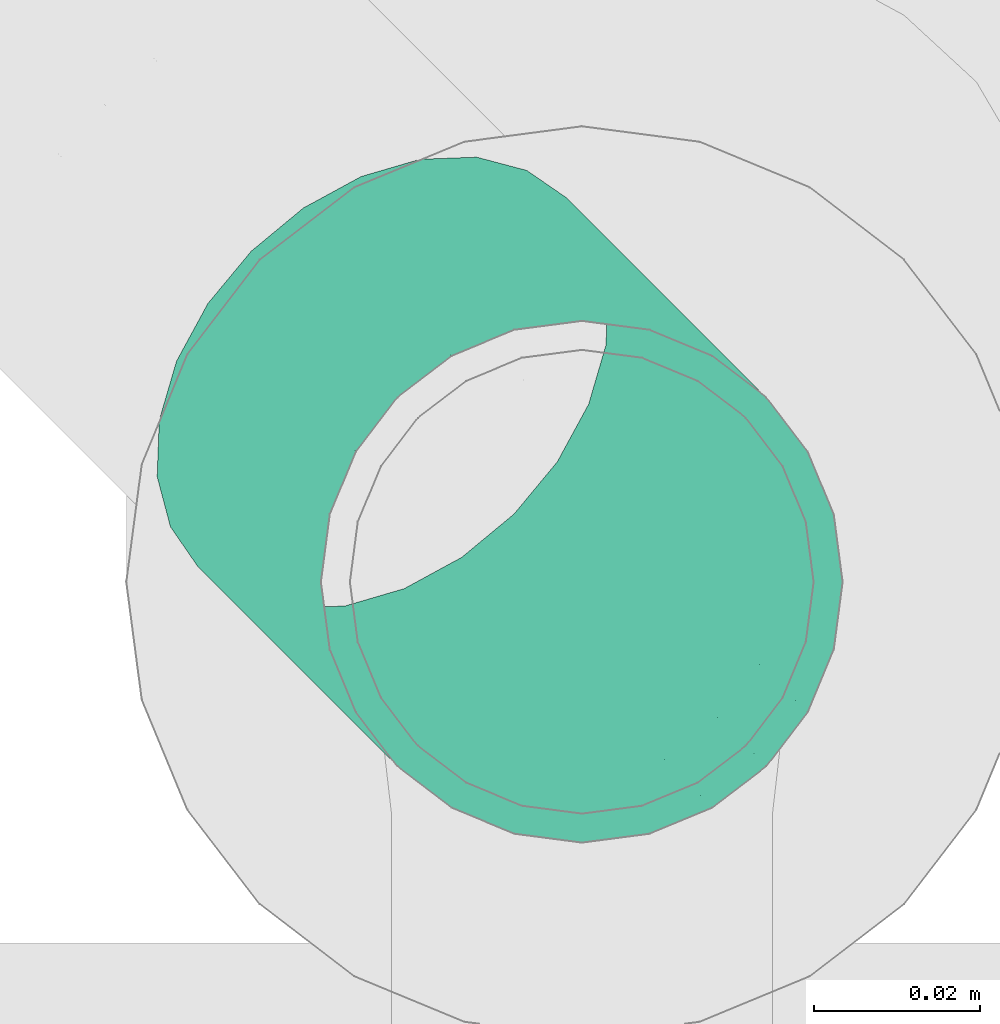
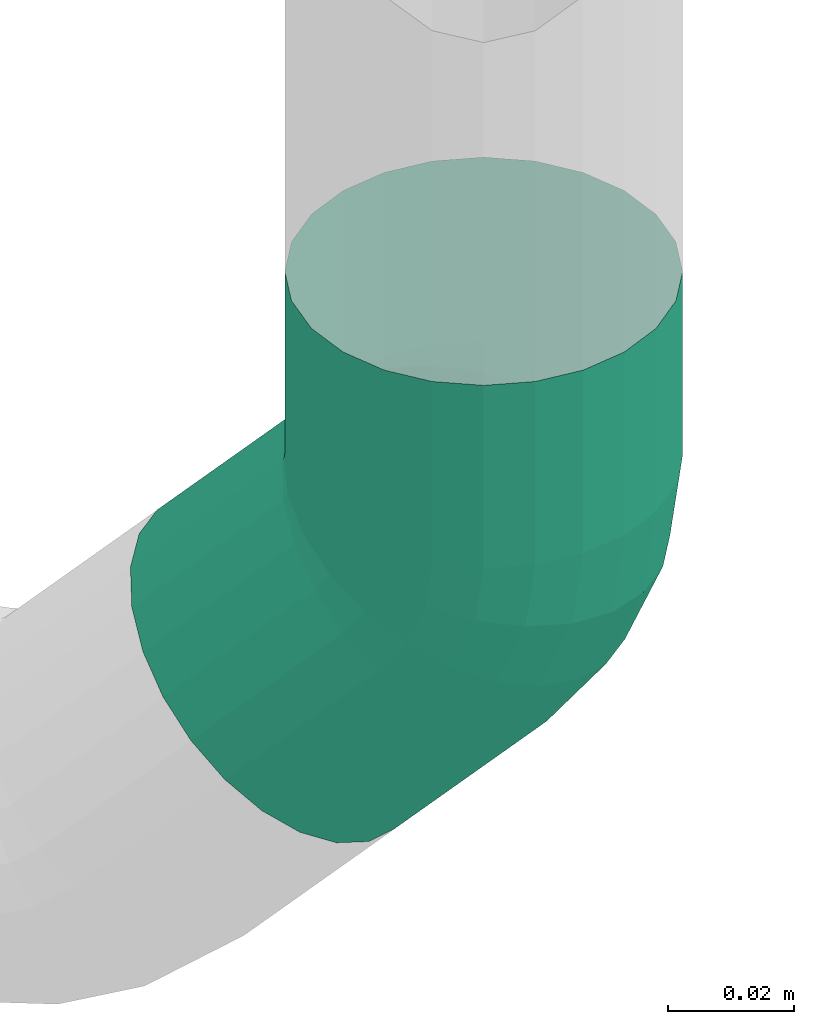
# One storey, part 125 of 374: 1 flow fitting.
"""IFC2X3 building model written with IfcOpenShell, lengths in metres."""

import ifcopenshell
import ifcopenshell.guid

model = None  # the IFC model being written
_history = None  # IfcOwnerHistory: only IFC2X3 demands one
_inside = {}  # id of a spatial element -> (the spatial element, [elements in it])
_under = {}  # id of a project, library or spatial element -> (it, [spatial elements below it])
_declared = {}  # id of a project -> (the project, [libraries it declares])
_typed = {}  # id of a type object -> (the type object, [elements of that type])
_made_of = {}  # id of a material, layer set ... -> (it, [elements and type objects made of it])


def new_model(schema):
    """Start an empty IFC model of exactly this schema.

    Asked for "IFC4X3", IfcOpenShell would pick the latest addendum, in which some entities
    have other attributes; the version numbers below select the first issue.
    IFC2X3 requires an IfcOwnerHistory on every rooted entity: one is made here for all.
    """
    global model, _history
    if schema == "IFC4X3":
        model = ifcopenshell.file(schema_version=(4, 3, 0, 0))
    else:
        model = ifcopenshell.file(schema=schema)
    _inside.clear()
    _under.clear()
    _declared.clear()
    _typed.clear()
    _made_of.clear()
    _history = None
    if model.schema == "IFC2X3":
        org = make("IfcOrganization", Name="unknown")
        user = make(
            "IfcPersonAndOrganization",
            ThePerson=make("IfcPerson", FamilyName="unknown"),
            TheOrganization=org,
        )
        app = make(
            "IfcApplication",
            ApplicationDeveloper=org,
            Version="unknown",
            ApplicationFullName="unknown",
            ApplicationIdentifier="unknown",
        )
        _history = make(
            "IfcOwnerHistory",
            OwningUser=user,
            OwningApplication=app,
            ChangeAction="ADDED",
            CreationDate=0,
        )
    return model


def make(cls, **values):
    """One entity of the class cls with the attributes given. An attribute that is None is left unset."""
    return model.create_entity(
        cls, **{name: value for name, value in values.items() if value is not None}
    )


def rooted(cls, **values):
    """An entity with a GlobalId (a new one), such as an element, a storey or a relation."""
    return make(cls, GlobalId=ifcopenshell.guid.new(), OwnerHistory=_history, **values)


def si_unit(unit_type, name, prefix=None):
    """IfcSIUnit, for example si_unit("LENGTHUNIT", "METRE", prefix="MILLI")."""
    return make("IfcSIUnit", UnitType=unit_type, Prefix=prefix, Name=name)


def assignment(units):
    """IfcUnitAssignment: the units of a project."""
    return None if units is None else make("IfcUnitAssignment", Units=units)


def point(xyz):
    """IfcCartesianPoint."""
    return None if xyz is None else make("IfcCartesianPoint", Coordinates=xyz)


def direction(xyz):
    """IfcDirection."""
    return None if xyz is None else make("IfcDirection", DirectionRatios=xyz)


def frame(location, z_axis=None, x_axis=None):
    """IfcAxis2Placement3D, a coordinate frame: its origin and axes. An axis left out is left unset."""
    return make(
        "IfcAxis2Placement3D",
        Location=point(location),
        Axis=direction(z_axis),
        RefDirection=direction(x_axis),
    )


def origin():
    """The frame at (0, 0, 0) with its axes left unset."""
    return frame((0.0, 0.0, 0.0))


def place(relative_to, where):
    """IfcLocalPlacement: puts the frame where relative to a parent placement (None: the world)."""
    return make(
        "IfcLocalPlacement", PlacementRelTo=relative_to, RelativePlacement=where
    )


def context(
    kind, dimensions, precision=None, world=None, true_north=None, identifier=None
):
    """IfcGeometricRepresentationContext, for example the 3D "Model" context."""
    return make(
        "IfcGeometricRepresentationContext",
        ContextIdentifier=identifier,
        ContextType=kind,
        CoordinateSpaceDimension=dimensions,
        Precision=precision,
        WorldCoordinateSystem=world,
        TrueNorth=true_north,
    )


def subcontext(parent, identifier, kind, view, scale=None):
    """IfcGeometricRepresentationSubContext, for example "Body" below "Model"."""
    return make(
        "IfcGeometricRepresentationSubContext",
        ContextIdentifier=identifier,
        ContextType=kind,
        ParentContext=parent,
        TargetScale=scale,
        TargetView=view,
    )


def project(units=None, contexts=None):
    """IfcProject with its units and contexts."""
    return rooted(
        "IfcProject",
        Name="project",
        RepresentationContexts=contexts,
        UnitsInContext=assignment(units),
    )


def spatial(cls, under=None, at=None, **own):
    """A site, building, storey or space (cls), placed at a placement, below another one or the project."""
    s = rooted(cls, ObjectPlacement=at, **own)
    if under is not None:
        _under.setdefault(under.id(), (under, []))[1].append(s)
    return s


def faces_of(points, faces, orient=None, outer=None):
    """IfcFace entities. A face is a list of loops; a loop is a list of indices into points, from 0.

    orient and outer hold one flag for each loop. By default every Orientation is true, the
    first loop of a face is its IfcFaceOuterBound and the others are IfcFaceBound.
    """
    made = []
    for i, loops in enumerate(faces):
        bounds = []
        for j, loop in enumerate(loops):
            is_outer = j == 0 if outer is None else outer[i][j]
            bounds.append(
                make(
                    "IfcFaceOuterBound" if is_outer else "IfcFaceBound",
                    Bound=make("IfcPolyLoop", Polygon=[points[k] for k in loop]),
                    Orientation=True if orient is None else orient[i][j],
                )
            )
        made.append(make("IfcFace", Bounds=bounds))
    return made


def open_shell(faces, orient=None, outer=None):
    """The faces of one IfcOpenShell. surface_model builds it on its shared points."""
    return ("IfcOpenShell", faces, orient, outer)


def surface_model(cls, points, shells):
    """IfcFaceBasedSurfaceModel or IfcShellBasedSurfaceModel (cls): surfaces that need not close."""
    shared = [point(p) for p in points]
    made = [make(c, CfsFaces=faces_of(shared, fs, o, b)) for c, fs, o, b in shells]
    if cls == "IfcFaceBasedSurfaceModel":
        return make(cls, FbsmFaces=made)
    return make(cls, SbsmBoundary=made)


def shape(context_of_items, identifier, shape_type, items):
    """IfcShapeRepresentation: the items that make up one representation, for example the "Body"."""
    return make(
        "IfcShapeRepresentation",
        ContextOfItems=context_of_items,
        RepresentationIdentifier=identifier,
        RepresentationType=shape_type,
        Items=items,
    )


def source(mapping_origin, context_of_items, identifier, shape_type, items):
    """IfcRepresentationMap: a shape defined once, which mapped items show again and again."""
    return make(
        "IfcRepresentationMap",
        MappingOrigin=mapping_origin,
        MappedRepresentation=shape(context_of_items, identifier, shape_type, items),
    )


def transform(
    local_origin,
    x_axis=None,
    y_axis=None,
    z_axis=None,
    scale=None,
    scale2=None,
    scale3=None,
    uniform=True,
):
    """IfcCartesianTransformationOperator3D, or its non-uniform kind. x_axis, y_axis, z_axis: its Axis1, 2, 3."""
    if uniform:
        return make(
            "IfcCartesianTransformationOperator3D",
            Axis1=direction(x_axis),
            Axis2=direction(y_axis),
            LocalOrigin=point(local_origin),
            Scale=scale,
            Axis3=direction(z_axis),
        )
    return make(
        "IfcCartesianTransformationOperator3DnonUniform",
        Axis1=direction(x_axis),
        Axis2=direction(y_axis),
        LocalOrigin=point(local_origin),
        Scale=scale,
        Axis3=direction(z_axis),
        Scale2=scale2,
        Scale3=scale3,
    )


def mapped(mapping_source, mapping_target):
    """IfcMappedItem: shows the shape of a source again, moved by a transform."""
    return make(
        "IfcMappedItem", MappingSource=mapping_source, MappingTarget=mapping_target
    )


def made_of(thing, what):
    """Note that an element or type object is made of a material, layer set ...; save() writes the relation."""
    if what is not None:
        _made_of.setdefault(what.id(), (what, []))[1].append(thing)
    return thing


def element(
    cls,
    number,
    at=None,
    inside=None,
    cuts=None,
    type_object=None,
    material=None,
    context=None,
    identifier="Body",
    shape_type=None,
    held_by="IfcProductDefinitionShape",
    body=None,
    shapes=None,
    **own,
):
    """One element of the class cls, such as IfcWall. Its Tag is "e" and its number.

    at: its placement. inside: the storey or other place that contains it. cuts: it is an
    opening in that element (IfcRelVoidsElement). A single representation is given by context,
    identifier, shape_type and body (its items); several are given by shapes. held_by: the class
    of the entity that holds the representations. save() writes the other relations.
    """
    e = rooted(cls, Tag="e%d" % number, ObjectPlacement=at, **own)
    if body is not None:
        shapes = [shape(context, identifier, shape_type, body)]
    if shapes is not None:
        e.Representation = make(held_by, Representations=shapes)
    if inside is not None:
        _inside.setdefault(inside.id(), (inside, []))[1].append(e)
    if cuts is not None:
        rooted(
            "IfcRelVoidsElement", RelatingBuildingElement=cuts, RelatedOpeningElement=e
        )
    if type_object is not None:
        _typed.setdefault(type_object.id(), (type_object, []))[1].append(e)
    return made_of(e, material)


def aggregate(whole, parts):
    """IfcRelAggregates: a whole, such as a stair, and the parts it consists of."""
    return rooted("IfcRelAggregates", RelatingObject=whole, RelatedObjects=parts)


def save(model, path):
    """Write the relations noted so far, then the file.

    IfcRelAggregates (storeys below a building ...), IfcRelContainedInSpatialStructure (elements
    in a storey), IfcRelDefinesByType, IfcRelAssociatesMaterial and IfcRelDeclares: one each for
    every whole, place, type object, material and project.
    """
    for whole, parts in _under.values():
        aggregate(whole, parts)
    for where, things in _inside.values():
        rooted(
            "IfcRelContainedInSpatialStructure",
            RelatedElements=things,
            RelatingStructure=where,
        )
    for kind, things in _typed.values():
        rooted("IfcRelDefinesByType", RelatedObjects=things, RelatingType=kind)
    for what, things in _made_of.values():
        rooted("IfcRelAssociatesMaterial", RelatedObjects=things, RelatingMaterial=what)
    for by, libraries in _declared.values():
        rooted("IfcRelDeclares", RelatingContext=by, RelatedDefinitions=libraries)
    model.write(path)


model = new_model("IFC2X3")

# Units and contexts
model_context = context("Model", 3, precision=1e-05, world=origin(), true_north=direction((-0.4480736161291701, 0.8939966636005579)))
body_context = subcontext(model_context, "Body", "Model", "MODEL_VIEW")
ifc_project = project(units=[si_unit("LENGTHUNIT", "METRE"), si_unit("AREAUNIT", "SQUARE_METRE"), si_unit("VOLUMEUNIT", "CUBIC_METRE"), si_unit("PLANEANGLEUNIT", "RADIAN"), si_unit("THERMODYNAMICTEMPERATUREUNIT", "KELVIN"), si_unit("MASSUNIT", "GRAM", prefix="KILO"), si_unit("TIMEUNIT", "SECOND")], contexts=[model_context])

# Site, building, storey
site_placement = place(None, origin())
site = spatial("IfcSite", under=ifc_project, at=site_placement, Name="Site 1", CompositionType="ELEMENT")
building_placement = place(site_placement, origin())
building = spatial("IfcBuilding", under=site, at=building_placement, Name="Undefined", CompositionType="ELEMENT")
storey_placement = place(building_placement, origin())
storey = spatial("IfcBuildingStorey", under=building, at=storey_placement, Name="Rez de chauss\x8ee", CompositionType="ELEMENT", Elevation=0.0)

# Flow fitting
shared_shape = source(origin(), body_context, "Body", "SurfaceModel", [
    surface_model("IfcFaceBasedSurfaceModel", [(0.0, 0.008223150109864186, -7.105427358e-15), (0.0, 0.0, 0.0), (0.03539999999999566, 1.776356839e-15, 0.0), (0.03539999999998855, 0.008223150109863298, 0.0), (0.0, -0.007942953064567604, -0.002128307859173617), (0.03539999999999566, -0.007942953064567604, -0.00212830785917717), (-7.105427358e-15, -0.015064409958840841, -0.006239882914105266), (0.035399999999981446, -0.015064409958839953, -0.006239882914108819), (0.0, -0.020879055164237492, -0.012054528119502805), (0.03539999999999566, -0.02087905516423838, -0.012054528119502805), (0.0, -0.024990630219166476, -0.01917598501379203), (0.03539999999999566, -0.024990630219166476, -0.01917598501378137), (-7.105427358e-15, -0.027118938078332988, -0.027118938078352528), (0.03539999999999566, -0.027118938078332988, -0.02711893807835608), (-1.4210854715e-14, -0.02711893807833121, -0.035342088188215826), (0.03539999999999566, -0.02711893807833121, -0.035342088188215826), (-7.105427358e-15, -0.024990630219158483, -0.04328504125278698), (0.03539999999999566, -0.024990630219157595, -0.043285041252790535), (-7.105427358e-15, -0.02087905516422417, -0.050406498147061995), (0.03539999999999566, -0.02087905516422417, -0.05040649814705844), (-7.105427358e-15, -0.015064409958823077, -0.05622114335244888), (0.03539999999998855, -0.015064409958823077, -0.05622114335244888), (-1.4210854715e-14, -0.007942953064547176, -0.06033271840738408), (0.03539999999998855, -0.007942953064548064, -0.06033271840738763), (0.0, 2.2204460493e-14, -0.06246102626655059), (0.03539999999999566, 2.3092638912e-14, -0.06246102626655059), (0.0, 0.00822315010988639, -0.06246102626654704), (0.03539999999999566, 0.00822315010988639, -0.06246102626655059), (-7.105427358e-15, 0.016166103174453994, -0.06033271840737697), (0.03539999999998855, 0.016166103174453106, -0.06033271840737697), (-7.105427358e-15, 0.02328756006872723, -0.056221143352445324), (0.03539999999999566, 0.023287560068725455, -0.05622114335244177), (0.0, 0.029102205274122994, -0.05040649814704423), (0.03539999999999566, 0.02910220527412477, -0.05040649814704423), (-7.105427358e-15, 0.03321378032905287, -0.043285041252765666), (0.03539999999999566, 0.03321378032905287, -0.043285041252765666), (-7.105427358e-15, 0.03534208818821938, -0.03534208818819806), (0.03540000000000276, 0.03534208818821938, -0.035342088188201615), (-7.105427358e-15, 0.0353420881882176, -0.027118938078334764), (0.03539999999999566, 0.035342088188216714, -0.027118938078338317), (-7.105427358e-15, 0.03321378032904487, -0.019175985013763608), (0.03539999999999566, 0.033213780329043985, -0.019175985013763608), (-7.105427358e-15, 0.02910220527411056, -0.012054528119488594), (0.03540000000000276, 0.02910220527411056, -0.012054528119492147), (-7.105427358e-15, 0.023287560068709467, -0.00623988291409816), (0.03539999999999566, 0.023287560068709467, -0.00623988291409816), (-7.105427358e-15, 0.016166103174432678, -0.0021283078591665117), (0.03539999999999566, 0.016166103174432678, -0.0021283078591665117), (0.051406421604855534, -0.02504985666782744, -0.035614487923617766), (0.05168162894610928, -0.025014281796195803, -0.027396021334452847), (0.06634264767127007, -0.01898095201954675, -0.03641347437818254), (0.06687466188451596, -0.01884103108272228, -0.028208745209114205), (0.07921003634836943, -0.009317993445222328, -0.037685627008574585), (0.0799632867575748, -0.009011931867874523, -0.02950277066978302), (0.05059955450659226, -0.023025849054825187, -0.04354370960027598), (0.06478286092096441, -0.01726287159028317, -0.044302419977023), (0.07700161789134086, -0.008087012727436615, -0.04551044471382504), (0.04931601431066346, -0.019080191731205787, -0.05064332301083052), (0.06230159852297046, -0.013803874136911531, -0.05133796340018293), (0.07348853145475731, -0.0054028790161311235, -0.05244397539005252), (0.04764327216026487, -0.013481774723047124, -0.0564295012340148), (0.05906795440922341, -0.008839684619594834, -0.057040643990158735), (0.06891018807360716, -0.00144851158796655, -0.05801371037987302), (0.04569532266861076, -0.006612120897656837, -0.060507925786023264), (0.05530229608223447, -0.0027086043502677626, -0.061021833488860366), (0.06357859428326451, 0.003506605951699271, -0.061840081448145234), (0.043604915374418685, 0.0010606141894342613, -0.06260065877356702), (0.051261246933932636, 0.004171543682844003, -0.06301022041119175), (0.05785708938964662, 0.00912479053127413, -0.06366232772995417), (0.04151450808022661, 0.009013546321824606, -0.06256508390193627), (0.04722019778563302, 0.011331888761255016, -0.06287029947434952), (0.05213558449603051, 0.015023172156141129, -0.06335626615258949), (0.0395665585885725, 0.016704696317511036, -0.0604036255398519), (0.043454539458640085, 0.01828446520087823, -0.060611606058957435), (0.046803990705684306, 0.020799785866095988, -0.0609427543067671), (0.03789381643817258, 0.023609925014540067, -0.05626358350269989), (0.04022089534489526, 0.024555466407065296, -0.05638806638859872), (0.04222564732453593, 0.026060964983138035, -0.05658626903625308), (0.036610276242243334, 0.02925865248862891, -0.0504270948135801), (0.03773963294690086, 0.029717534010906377, -0.05048750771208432), (0.038712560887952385, 0.03044816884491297, -0.05058369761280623), (0.0358034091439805, 0.03326592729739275, -0.04329190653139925), (0.036179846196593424, 0.033418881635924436, -0.04331204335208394), (0.03650414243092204, 0.03366241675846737, -0.043344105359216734), (0.03552820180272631, 0.03535866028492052, -0.03534426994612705), (0.03564783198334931, 0.035407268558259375, -0.03535066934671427), (0.035750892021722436, 0.03548466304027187, -0.03536085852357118), (0.0358034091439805, 0.03539423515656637, -0.02712580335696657), (0.036179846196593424, 0.03554718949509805, -0.027145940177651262), (0.03650414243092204, 0.03579072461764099, -0.027178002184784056), (0.036610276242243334, 0.03337022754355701, -0.019196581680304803), (0.03773963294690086, 0.03382910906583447, -0.019256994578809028), (0.038712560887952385, 0.03455974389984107, -0.019353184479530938), (0.03789381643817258, 0.029424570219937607, -0.012096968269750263), (0.04022089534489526, 0.030370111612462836, -0.012221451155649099), (0.04222564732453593, 0.031875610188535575, -0.012419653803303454), (0.0395665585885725, 0.02382615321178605, -0.006310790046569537), (0.043454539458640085, 0.025405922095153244, -0.006518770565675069), (0.046803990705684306, 0.027921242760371, -0.006849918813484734), (0.04151450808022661, 0.016956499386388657, -0.0022323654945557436), (0.04722019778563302, 0.019274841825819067, -0.002537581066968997), (0.05213558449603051, 0.02296612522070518, -0.0030235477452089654), (0.04360491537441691, 0.009283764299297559, -0.00013963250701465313), (0.05126124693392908, 0.012394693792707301, -0.0005491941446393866), (0.05785708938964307, 0.017347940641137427, -0.0012013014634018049), (0.04569532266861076, 0.0013308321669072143, -0.00017520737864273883), (0.05530229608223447, 0.0052343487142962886, -0.0006891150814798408), (0.06357859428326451, 0.011449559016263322, -0.0015073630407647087), (0.04764327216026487, -0.006360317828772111, -0.0023366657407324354), (0.05906795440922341, -0.0017182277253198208, -0.0029478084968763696), (0.06891018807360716, 0.005672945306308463, -0.003920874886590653), (0.04931601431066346, -0.013265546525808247, -0.006476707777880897), (0.06230159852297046, -0.007989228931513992, -0.007171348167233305), (0.07348853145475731, 0.00041176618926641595, -0.008277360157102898), (0.05059955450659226, -0.01891427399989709, -0.012313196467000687), (0.06478286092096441, -0.013151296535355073, -0.013071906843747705), (0.07700161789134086, -0.003975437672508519, -0.014279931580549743), (0.051406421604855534, -0.022921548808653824, -0.019448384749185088), (0.06634264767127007, -0.01685264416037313, -0.020247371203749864), (0.07921003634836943, -0.007189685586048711, -0.021519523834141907), (0.10442863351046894, 0.015312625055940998, -0.040928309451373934), (0.10518188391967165, 0.015618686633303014, -0.03274545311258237), (0.10222021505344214, 0.016543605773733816, -0.04875312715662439), (0.09870712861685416, 0.019227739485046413, -0.05568665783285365), (0.09412878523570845, 0.023182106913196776, -0.06125639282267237), (0.08879719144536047, 0.028137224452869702, -0.0650827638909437), (0.08307568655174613, 0.033755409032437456, -0.06690501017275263), (0.07735418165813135, 0.039653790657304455, -0.06659894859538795), (0.07202258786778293, 0.04543040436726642, -0.06418543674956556), (0.06744424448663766, 0.05069158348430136, -0.05982895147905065), (0.06393115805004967, 0.0550787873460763, -0.053826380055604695), (0.06172273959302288, 0.0582930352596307, -0.04658678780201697), (0.06096948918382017, 0.06011528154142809, -0.03860354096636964), (0.06172273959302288, 0.060421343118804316, -0.030420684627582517), (0.06393115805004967, 0.05919036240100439, -0.0225958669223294), (0.06744424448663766, 0.0565062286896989, -0.015662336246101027), (0.07202258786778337, 0.05255186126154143, -0.010092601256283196), (0.07735418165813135, 0.047596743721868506, -0.006266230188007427), (0.08307568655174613, 0.04197855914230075, -0.004443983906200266), (0.08879719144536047, 0.036080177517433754, -0.00475004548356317), (0.09412878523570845, 0.03030356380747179, -0.007163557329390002), (0.09870712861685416, 0.025042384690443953, -0.011520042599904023), (0.10222021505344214, 0.020655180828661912, -0.017522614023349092), (0.10442863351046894, 0.017440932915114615, -0.02476220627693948)], [open_shell([[[0, 1, 2, 3]], [[1, 4, 5, 2]], [[4, 6, 7, 5]], [[6, 8, 9, 7]], [[8, 10, 11, 9]], [[10, 12, 13, 11]], [[12, 14, 15, 13]], [[14, 16, 17, 15]], [[16, 18, 19, 17]], [[18, 20, 21, 19]], [[20, 22, 23, 21]], [[22, 24, 25, 23]], [[24, 26, 27, 25]], [[26, 28, 29, 27]], [[28, 30, 31, 29]], [[30, 32, 33, 31]], [[32, 34, 35, 33]], [[34, 36, 37, 35]], [[36, 38, 39, 37]], [[38, 40, 41, 39]], [[40, 42, 43, 41]], [[42, 44, 45, 43]], [[44, 46, 47, 45]], [[46, 0, 3, 47]], [[13, 15, 48, 49]], [[49, 48, 50, 51]], [[51, 50, 52, 53]], [[15, 17, 54, 48]], [[48, 54, 55, 50]], [[50, 55, 56, 52]], [[17, 19, 57, 54]], [[54, 57, 58, 55]], [[55, 58, 59, 56]], [[19, 21, 60, 57]], [[57, 60, 61, 58]], [[58, 61, 62, 59]], [[21, 23, 63, 60]], [[60, 63, 64, 61]], [[61, 64, 65, 62]], [[23, 25, 66, 63]], [[63, 66, 67, 64]], [[64, 67, 68, 65]], [[25, 27, 69, 66]], [[66, 69, 70, 67]], [[67, 70, 71, 68]], [[27, 29, 72, 69]], [[69, 72, 73, 70]], [[70, 73, 74, 71]], [[29, 31, 75, 72]], [[72, 75, 76, 73]], [[73, 76, 77, 74]], [[31, 33, 78, 75]], [[75, 78, 79, 76]], [[76, 79, 80, 77]], [[33, 35, 81, 78]], [[78, 81, 82, 79]], [[79, 82, 83, 80]], [[35, 37, 84, 81]], [[81, 84, 85, 82]], [[82, 85, 86, 83]], [[37, 39, 87, 84]], [[84, 87, 88, 85]], [[85, 88, 89, 86]], [[39, 41, 90, 87]], [[87, 90, 91, 88]], [[88, 91, 92, 89]], [[41, 43, 93, 90]], [[90, 93, 94, 91]], [[91, 94, 95, 92]], [[43, 45, 96, 93]], [[93, 96, 97, 94]], [[94, 97, 98, 95]], [[45, 47, 99, 96]], [[96, 99, 100, 97]], [[97, 100, 101, 98]], [[47, 3, 102, 99]], [[99, 102, 103, 100]], [[100, 103, 104, 101]], [[3, 2, 105, 102]], [[102, 105, 106, 103]], [[103, 106, 107, 104]], [[2, 5, 108, 105]], [[105, 108, 109, 106]], [[106, 109, 110, 107]], [[5, 7, 111, 108]], [[108, 111, 112, 109]], [[109, 112, 113, 110]], [[7, 9, 114, 111]], [[111, 114, 115, 112]], [[112, 115, 116, 113]], [[9, 11, 117, 114]], [[114, 117, 118, 115]], [[115, 118, 119, 116]], [[11, 13, 49, 117]], [[117, 49, 51, 118]], [[118, 51, 53, 119]], [[53, 52, 120, 121]], [[52, 56, 122, 120]], [[56, 59, 123, 122]], [[59, 62, 124, 123]], [[62, 65, 125, 124]], [[65, 68, 126, 125]], [[68, 71, 127, 126]], [[71, 74, 128, 127]], [[74, 77, 129, 128]], [[77, 80, 130, 129]], [[80, 83, 131, 130]], [[83, 86, 132, 131]], [[86, 89, 133, 132]], [[89, 92, 134, 133]], [[92, 95, 135, 134]], [[95, 98, 136, 135]], [[98, 101, 137, 136]], [[101, 104, 138, 137]], [[104, 107, 139, 138]], [[107, 110, 140, 139]], [[110, 113, 141, 140]], [[113, 116, 142, 141]], [[116, 119, 143, 142]], [[119, 53, 121, 143]]])]),
])
flow_fitting_placement = place(storey_placement, origin())
element("IfcFlowFitting", 1, at=flow_fitting_placement, inside=storey, Name="PE-HD coude 45°", ObjectType="PE-HD coude 45°", context=body_context, shape_type="MappedRepresentation", body=[
    mapped(shared_shape, transform((58.533524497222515, 11.985164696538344, 4.684027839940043), x_axis=(0.49623625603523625, -0.49623625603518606, 0.712389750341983), y_axis=(-0.5917220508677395, 0.4071301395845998, 0.6957801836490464), z_axis=(-0.6353066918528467, -0.766808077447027, -0.09160119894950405))),
])

save(model, "model.ifc")
